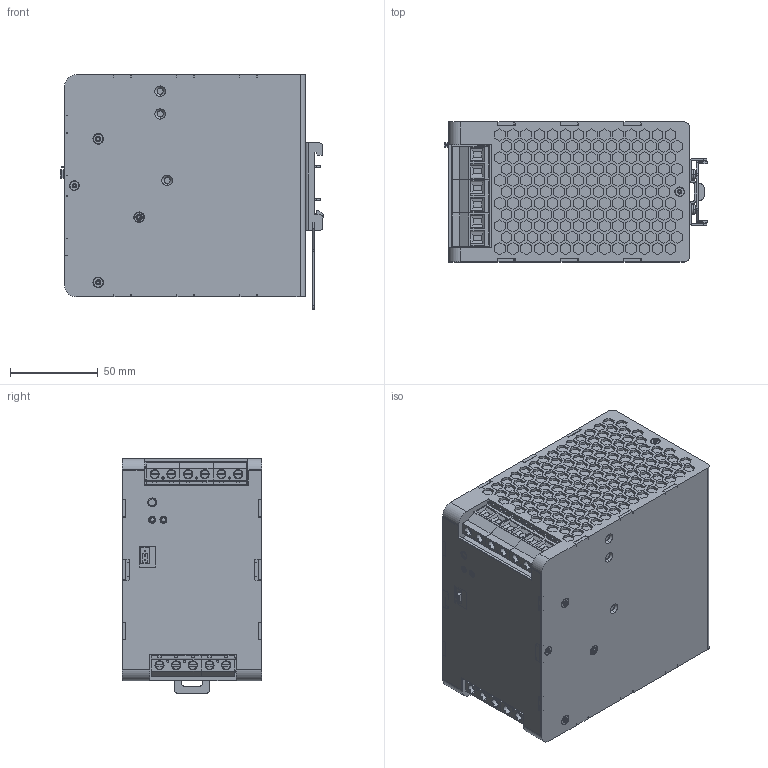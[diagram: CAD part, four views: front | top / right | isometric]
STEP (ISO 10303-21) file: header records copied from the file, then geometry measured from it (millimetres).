
FILE_DESCRIPTION (( 'STEP AP214' ), '1' );
FILE_NAME ('NPSM501_-_NPST501_-_NPST721_-_NPST961_3D_light.STEP', '2016-04-27T07:37:05', ( 'miky' ), ( 'Microsoft' ), 'SwSTEP 2.0', 'SolidWorks 2014', '' );
FILE_SCHEMA (( 'AUTOMOTIVE_DESIGN' ));
Length unit declared in the file: millimetre
Products named in the file (1): NPSM501_-_NPST501_-_NPST721_-_NPST961_3D_light
Bounding box: 150.52 x 80 x 134.2 mm (x, y, z)
Volume: 1367437.7 mm3; surface area: 107300 mm2
Topology: 1 solids, 18 shells, 4353 faces, 11485 edges, 7587 vertices
Faces by surface type: plane 3286, cylinder 857, cone 160, bspline 40, torus 8, sphere 2
Entity records: 183513 total; most frequent: CARTESIAN_POINT 28316, ORIENTED_EDGE 22970, DIRECTION 21541, EDGE_CURVE 11485, VECTOR 8837, LINE 8837, VERTEX_POINT 7587, AXIS2_PLACEMENT_3D 6352
